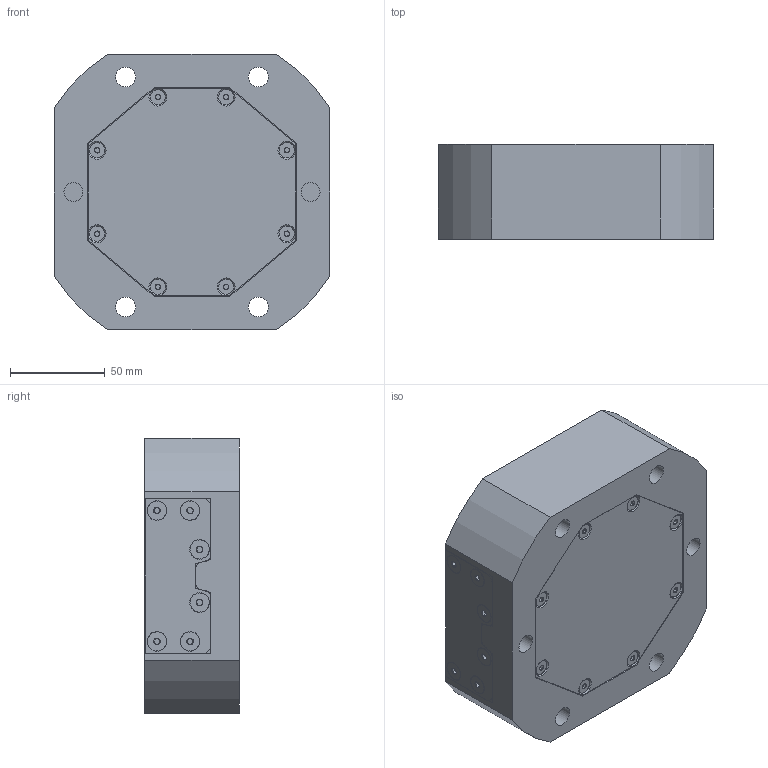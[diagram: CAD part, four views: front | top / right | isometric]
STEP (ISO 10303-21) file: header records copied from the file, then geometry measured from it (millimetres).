
FILE_DESCRIPTION (( 'STEP AP214' ), '1' );
FILE_NAME ('RL52P-66B_WEBSITE.STEP', '2025-08-12T15:41:08', ( '' ), ( '' ), 'SwSTEP 2.0', 'SolidWorks 2024', '' );
FILE_SCHEMA (( 'AUTOMOTIVE_DESIGN' ));
Length unit declared in the file: inch
Products named in the file (7): 91294A212_BLACK ALLOY STEEL FLAT-HEAD SOCKET CAP SCREW_WEBSITE; 91294A192_BLACK ALLOY STEEL FLAT-HEAD SOCKET CAP SCREW_WEBSITE; HW22X16.DB.A_WEBSITE_MILL; RL52P-6_WEBSITE; RL52P-66B_WEBSITE; RL52P-3B_WEBSITE; RL52P-166S_WEBSITE
Assembly tree (28 placements, depth 2):
  RL52P-66B_WEBSITE
    RL52P-166S_WEBSITE
    RL52P-3B_WEBSITE
    RL52P-6_WEBSITE  x2
    91294A212_BLACK ALLOY STEEL FLAT-HEAD SOCKET CAP SCREW_WEBSITE  x12
    91294A192_BLACK ALLOY STEEL FLAT-HEAD SOCKET CAP SCREW_WEBSITE  x8
    HW22X16.DB.A_WEBSITE_MILL  x4
Bounding box: 145.2 x 50 x 145 mm (x, y, z)
Volume: 718013.5 mm3; surface area: 151053.9 mm2
Topology: 28 solids, 28 shells, 752 faces, 1564 edges, 944 vertices
Faces by surface type: plane 352, cylinder 205, cone 195
Full cylindrical faces by diameter (mm): 0.508 x1, 2.778 x1, 3.3 x8, 4 x16, 4.2 x12, 4.5 x8, 5 x12, 5.079 x12, 5.5 x12, 8 x8, 8.433 x1, 9.144 x4, 9.525 x4, 10 x12, 10.046 x2, 10.5 x4, 12.763 x2, 12.776 x2, 15.494 x4, 15.621 x2, 16.002 x4, 18 x4, 21.844 x1, 21.981 x4, 21.994 x4, 22.047 x4, 40.64 x1, 87.554 x1, 87.63 x1, 90.627 x1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
Entity records: 11108 total; most frequent: CARTESIAN_POINT 2202, DIRECTION 1904, ORIENTED_EDGE 1454, AXIS2_PLACEMENT_3D 783, EDGE_CURVE 727, EDGE_LOOP 654, VERTEX_POINT 553, FACE_OUTER_BOUND 498
